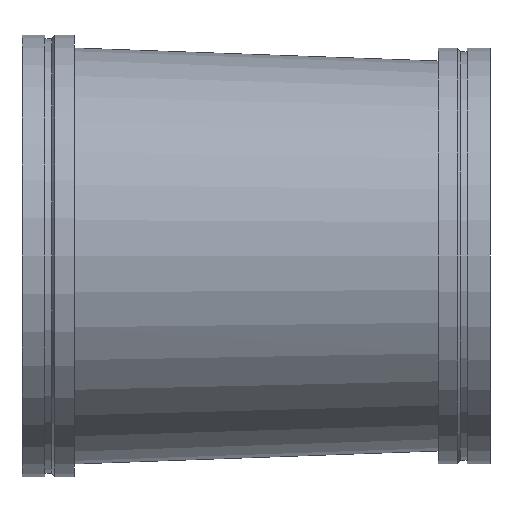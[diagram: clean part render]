
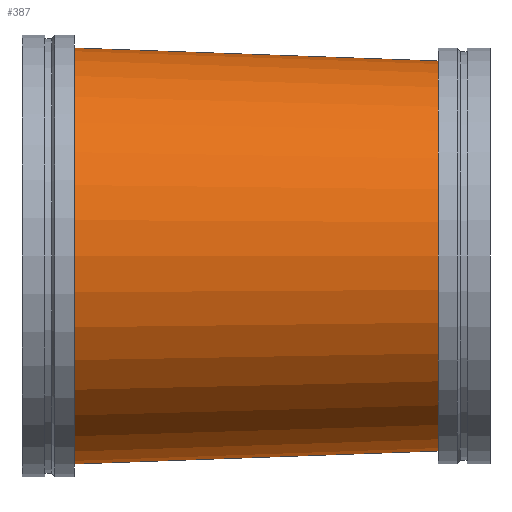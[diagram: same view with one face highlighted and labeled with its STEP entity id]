
A CAD part, front view. The second image highlights one B-rep face of the part: STEP entity #387.
In plain terms, the highlighted free-form (B-spline) face has degree [1, 2] with [2, 9] control points.
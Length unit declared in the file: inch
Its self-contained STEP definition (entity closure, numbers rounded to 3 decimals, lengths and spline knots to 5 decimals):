
#46=B_SPLINE_CURVE_WITH_KNOTS('',1,(#747,#748),.UNSPECIFIED.,.F.,.F.,(2,
2),(-1.75227,-0.00005),.UNSPECIFIED.);
#48=(
BOUNDED_SURFACE()
B_SPLINE_SURFACE(1,2,((#729,#730,#731,#732,#733,#734,#735,#736,#737),(#738,
#739,#740,#741,#742,#743,#744,#745,#746)),.UNSPECIFIED.,.F.,.T.,.F.)
B_SPLINE_SURFACE_WITH_KNOTS((2,2),(3,2,2,2,3),(-0.03567,1.78567),
(-3.14159,-1.5708,0.,1.5708,3.14159),
 .UNSPECIFIED.)
GEOMETRIC_REPRESENTATION_ITEM()
RATIONAL_B_SPLINE_SURFACE(((1.,0.707,1.,0.707,1.,
0.707,1.,0.707,1.),(1.,0.707,1.,0.707,
1.,0.707,1.,0.707,1.)))
REPRESENTATION_ITEM('')
SURFACE()
);
#98=FACE_OUTER_BOUND('',#120,.T.);
#120=EDGE_LOOP('',(#321,#322,#323,#324,#325,#326));
#129=CIRCLE('',#415,15.);
#130=CIRCLE('',#416,15.);
#153=CIRCLE('',#450,16.);
#154=CIRCLE('',#451,16.);
#166=VERTEX_POINT('',#628);
#167=VERTEX_POINT('',#629);
#190=VERTEX_POINT('',#695);
#191=VERTEX_POINT('',#696);
#203=EDGE_CURVE('',#166,#167,#129,.T.);
#204=EDGE_CURVE('',#167,#166,#130,.T.);
#235=EDGE_CURVE('',#190,#191,#153,.T.);
#236=EDGE_CURVE('',#191,#190,#154,.T.);
#243=EDGE_CURVE('',#167,#191,#46,.T.);
#321=ORIENTED_EDGE('',*,*,#203,.T.);
#322=ORIENTED_EDGE('',*,*,#243,.T.);
#323=ORIENTED_EDGE('',*,*,#236,.T.);
#324=ORIENTED_EDGE('',*,*,#235,.T.);
#325=ORIENTED_EDGE('',*,*,#243,.F.);
#326=ORIENTED_EDGE('',*,*,#204,.T.);
#387=ADVANCED_FACE('',(#98),#48,.F.);
#415=AXIS2_PLACEMENT_3D('',#630,#486,#487);
#416=AXIS2_PLACEMENT_3D('',#631,#488,#489);
#450=AXIS2_PLACEMENT_3D('',#697,#564,#565);
#451=AXIS2_PLACEMENT_3D('',#698,#566,#567);
#486=DIRECTION('center_axis',(-1.,0.,0.));
#487=DIRECTION('ref_axis',(0.,-1.,0.));
#488=DIRECTION('center_axis',(-1.,0.,0.));
#489=DIRECTION('ref_axis',(0.,-1.,0.));
#564=DIRECTION('center_axis',(1.,0.,0.));
#565=DIRECTION('ref_axis',(0.,1.,0.));
#566=DIRECTION('center_axis',(1.,0.,0.));
#567=DIRECTION('ref_axis',(0.,1.,0.));
#628=CARTESIAN_POINT('',(32.,-16.,0.));
#629=CARTESIAN_POINT('',(32.,-1.01908,14.99999));
#630=CARTESIAN_POINT('Origin',(32.,-1.,0.));
#631=CARTESIAN_POINT('Origin',(32.,-1.,0.));
#695=CARTESIAN_POINT('',(4.,16.,0.));
#696=CARTESIAN_POINT('',(4.,-0.02036,15.99999));
#697=CARTESIAN_POINT('Origin',(4.,0.,0.));
#698=CARTESIAN_POINT('Origin',(4.,0.,0.));
#729=CARTESIAN_POINT('Ctrl Pts',(3.4293,0.,16.02037));
#730=CARTESIAN_POINT('Ctrl Pts',(2.8586,-16.,16.02037));
#731=CARTESIAN_POINT('Ctrl Pts',(2.8586,-16.,0.));
#732=CARTESIAN_POINT('Ctrl Pts',(2.8586,-16.,-16.02037));
#733=CARTESIAN_POINT('Ctrl Pts',(3.4293,0.,
-16.02037));
#734=CARTESIAN_POINT('Ctrl Pts',(4.,16.,-16.02037));
#735=CARTESIAN_POINT('Ctrl Pts',(4.,16.,0.));
#736=CARTESIAN_POINT('Ctrl Pts',(4.,16.,16.02037));
#737=CARTESIAN_POINT('Ctrl Pts',(3.4293,0.,16.02037));
#738=CARTESIAN_POINT('Ctrl Pts',(32.53367,-1.03812,14.98093));
#739=CARTESIAN_POINT('Ctrl Pts',(32.,-16.,14.98093));
#740=CARTESIAN_POINT('Ctrl Pts',(32.,-16.,0.));
#741=CARTESIAN_POINT('Ctrl Pts',(32.,-16.,-14.98093));
#742=CARTESIAN_POINT('Ctrl Pts',(32.53367,-1.03812,-14.98093));
#743=CARTESIAN_POINT('Ctrl Pts',(33.06735,13.92376,-14.98093));
#744=CARTESIAN_POINT('Ctrl Pts',(33.06735,13.92376,0.));
#745=CARTESIAN_POINT('Ctrl Pts',(33.06735,13.92376,14.98093));
#746=CARTESIAN_POINT('Ctrl Pts',(32.53367,-1.03812,14.98093));
#747=CARTESIAN_POINT('Ctrl Pts',(32.,-1.01908,14.99999));
#748=CARTESIAN_POINT('Ctrl Pts',(4.,-0.02036,15.99999));
